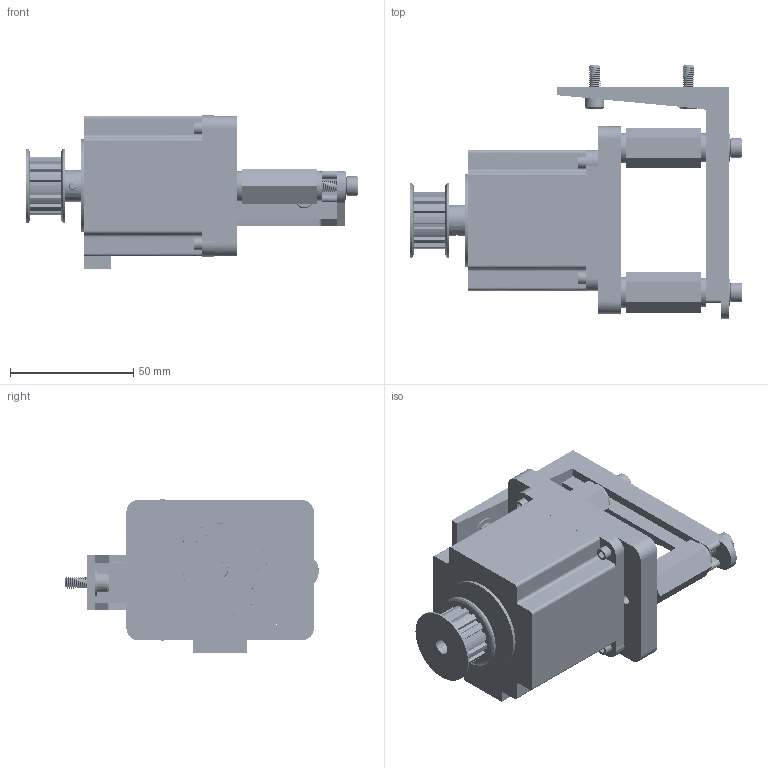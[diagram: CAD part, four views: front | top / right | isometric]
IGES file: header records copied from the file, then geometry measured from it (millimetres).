
Start section: Comment
Global section: file name: 6500  .igs; native system:  By Spatial Corp.; preprocessor: XPlus PS/IGES 3.0; author: sherline; organization: Title; date: 20211101.101631; units: inch
Bounding box: 134.95 x 102.9 x 62.39 mm (x, y, z)
Surface area: 66535.3 mm2 (no closed solid volume)
Topology: 0 solids, 0 shells, 1223 faces, 6800 edges, 6800 vertices
Faces by surface type: revolution 929, extrusion 280, bspline 14
